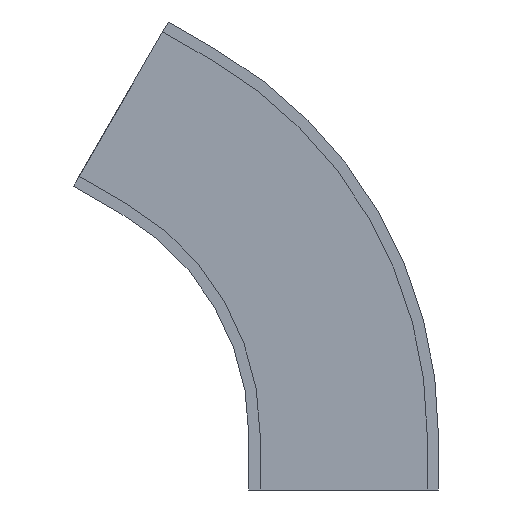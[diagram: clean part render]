
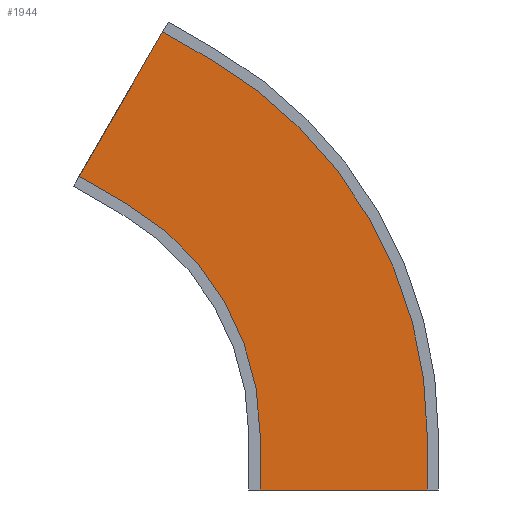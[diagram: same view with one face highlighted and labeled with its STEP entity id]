
A CAD part, front view. The second image highlights one B-rep face of the part: STEP entity #1944.
In plain terms, the highlighted planar face has unit normal (0, -1, 0).
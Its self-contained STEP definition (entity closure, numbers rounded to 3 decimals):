
#93 = CARTESIAN_POINT ( 'NONE',  ( 487.6, -68., -100. ) ) ;
#131 = CARTESIAN_POINT ( 'NONE',  ( 157.197, -68., 472.274 ) ) ;
#163 = CARTESIAN_POINT ( 'NONE',  ( 487.6, -68., 0. ) ) ;
#480 = VECTOR ( 'NONE', #1159, 1000. ) ;
#482 = VECTOR ( 'NONE', #1161, 1000. ) ;
#483 = LINE ( 'NONE', #1160, #480 ) ;
#484 = VECTOR ( 'NONE', #1162, 1000. ) ;
#486 = VECTOR ( 'NONE', #1166, 1000. ) ;
#487 = LINE ( 'NONE', #1165, #484 ) ;
#488 = VECTOR ( 'NONE', #1168, 1000. ) ;
#489 = LINE ( 'NONE', #1167, #486 ) ;
#490 = VECTOR ( 'NONE', #1193, 1000. ) ;
#491 = LINE ( 'NONE', #1175, #482 ) ;
#492 = LINE ( 'NONE', #1177, #488 ) ;
#494 = CIRCLE ( 'NONE', #1367, 792.4 ) ;
#497 = LINE ( 'NONE', #1174, #490 ) ;
#499 = CIRCLE ( 'NONE', #1368, 487.6 ) ;
#754 = ORIENTED_EDGE ( 'NONE', *, *, #1313, .F. ) ;
#755 = ORIENTED_EDGE ( 'NONE', *, *, #1314, .F. ) ;
#756 = ORIENTED_EDGE ( 'NONE', *, *, #1315, .F. ) ;
#757 = ORIENTED_EDGE ( 'NONE', *, *, #1316, .T. ) ;
#758 = ORIENTED_EDGE ( 'NONE', *, *, #1310, .T. ) ;
#759 = ORIENTED_EDGE ( 'NONE', *, *, #1317, .F. ) ;
#760 = ORIENTED_EDGE ( 'NONE', *, *, #1318, .F. ) ;
#761 = ORIENTED_EDGE ( 'NONE', *, *, #1319, .T. ) ;
#924 = VERTEX_POINT ( 'NONE', #1290 ) ;
#931 = VERTEX_POINT ( 'NONE', #1283 ) ;
#937 = VERTEX_POINT ( 'NONE', #1277 ) ;
#945 = VERTEX_POINT ( 'NONE', #1270 ) ;
#951 = VERTEX_POINT ( 'NONE', #1263 ) ;
#974 = DIRECTION ( 'NONE',  ( -1., 0., 0. ) ) ;
#975 = DIRECTION ( 'NONE',  ( 0., 1., 0. ) ) ;
#980 = CARTESIAN_POINT ( 'NONE',  ( 243.8, -68., 422.274 ) ) ;
#982 = PLANE ( 'NONE',  #1516 ) ;
#1159 = DIRECTION ( 'NONE',  ( 0., 0., 1. ) ) ;
#1160 = CARTESIAN_POINT ( 'NONE',  ( 792.4, -68., -100. ) ) ;
#1161 = DIRECTION ( 'NONE',  ( -1., 0., 0. ) ) ;
#1162 = DIRECTION ( 'NONE',  ( 0., 0., 1. ) ) ;
#1165 = CARTESIAN_POINT ( 'NONE',  ( 487.6, -68., -100. ) ) ;
#1166 = DIRECTION ( 'NONE',  ( 0.866, 0., -0.5 ) ) ;
#1167 = CARTESIAN_POINT ( 'NONE',  ( 157.197, -68., 472.274 ) ) ;
#1168 = DIRECTION ( 'NONE',  ( 0.5, 0., 0.866 ) ) ;
#1170 = DIRECTION ( 'NONE',  ( -1., 0., 0. ) ) ;
#1172 = DIRECTION ( 'NONE',  ( 0., 1., 0. ) ) ;
#1173 = CARTESIAN_POINT ( 'NONE',  ( 0., -68., 0. ) ) ;
#1174 = CARTESIAN_POINT ( 'NONE',  ( 309.597, -68., 736.239 ) ) ;
#1175 = CARTESIAN_POINT ( 'NONE',  ( 0., -68., -100. ) ) ;
#1177 = CARTESIAN_POINT ( 'NONE',  ( -86.603, -68., 50. ) ) ;
#1183 = DIRECTION ( 'NONE',  ( -1., 0., 0. ) ) ;
#1185 = DIRECTION ( 'NONE',  ( 0., 1., 0. ) ) ;
#1186 = CARTESIAN_POINT ( 'NONE',  ( 0., -68., 0. ) ) ;
#1193 = DIRECTION ( 'NONE',  ( 0.866, 0., -0.5 ) ) ;
#1263 = CARTESIAN_POINT ( 'NONE',  ( 309.597, -68., 736.239 ) ) ;
#1270 = CARTESIAN_POINT ( 'NONE',  ( 792.4, -68., -100. ) ) ;
#1277 = CARTESIAN_POINT ( 'NONE',  ( 792.4, -68., 0. ) ) ;
#1283 = CARTESIAN_POINT ( 'NONE',  ( 396.2, -68., 686.239 ) ) ;
#1290 = CARTESIAN_POINT ( 'NONE',  ( 243.8, -68., 422.274 ) ) ;
#1310 = EDGE_CURVE ( 'NONE', #924, #1824, #499, .T. ) ;
#1313 = EDGE_CURVE ( 'NONE', #931, #937, #494, .T. ) ;
#1314 = EDGE_CURVE ( 'NONE', #951, #931, #497, .T. ) ;
#1315 = EDGE_CURVE ( 'NONE', #1819, #951, #492, .T. ) ;
#1316 = EDGE_CURVE ( 'NONE', #1819, #924, #489, .T. ) ;
#1317 = EDGE_CURVE ( 'NONE', #1801, #1824, #487, .T. ) ;
#1318 = EDGE_CURVE ( 'NONE', #945, #1801, #491, .T. ) ;
#1319 = EDGE_CURVE ( 'NONE', #945, #937, #483, .T. ) ;
#1367 = AXIS2_PLACEMENT_3D ( 'NONE', #1173, #1172, #1170 ) ;
#1368 = AXIS2_PLACEMENT_3D ( 'NONE', #1186, #1185, #1183 ) ;
#1516 = AXIS2_PLACEMENT_3D ( 'NONE', #980, #975, #974 ) ;
#1562 = FACE_OUTER_BOUND ( 'NONE', #1826, .T. ) ;
#1801 = VERTEX_POINT ( 'NONE', #93 ) ;
#1819 = VERTEX_POINT ( 'NONE', #131 ) ;
#1824 = VERTEX_POINT ( 'NONE', #163 ) ;
#1826 = EDGE_LOOP ( 'NONE', ( #754, #755, #756, #757, #758, #759, #760, #761 ) ) ;
#1944 = ADVANCED_FACE ( 'NONE', ( #1562 ), #982, .F. ) ;
